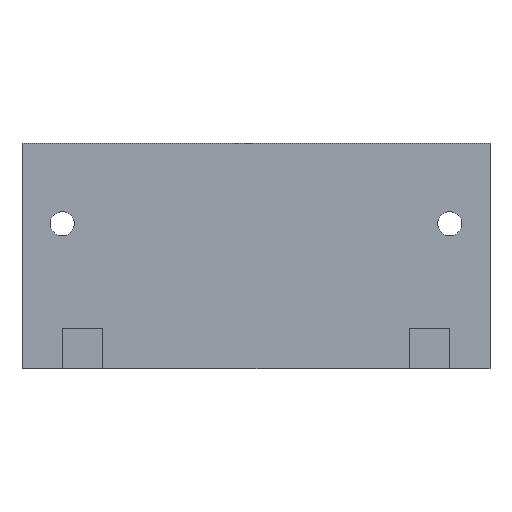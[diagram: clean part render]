
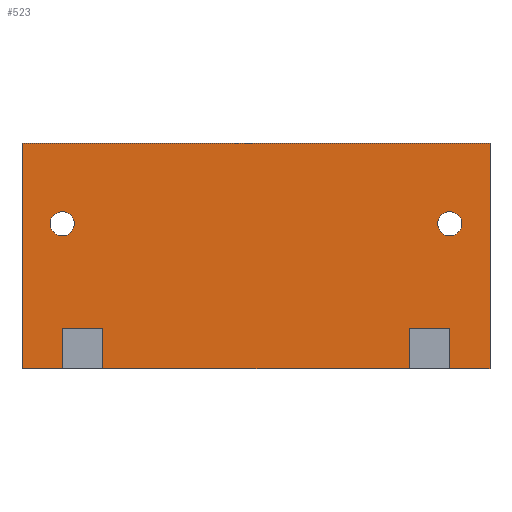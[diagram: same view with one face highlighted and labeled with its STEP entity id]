
A CAD part, front view. The second image highlights one B-rep face of the part: STEP entity #523.
In plain terms, the highlighted planar face has unit normal (0, -1, 0).
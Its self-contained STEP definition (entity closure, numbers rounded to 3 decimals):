
#23=FACE_BOUND('',#100,.T.);
#24=FACE_BOUND('',#101,.T.);
#41=PLANE('',#588);
#67=FACE_OUTER_BOUND('',#99,.T.);
#99=EDGE_LOOP('',(#452,#453,#454,#455,#456,#457,#458,#459,#460,#461,#462,
#463));
#100=EDGE_LOOP('',(#464));
#101=EDGE_LOOP('',(#465));
#112=LINE('',#765,#163);
#118=LINE('',#778,#169);
#129=LINE('',#865,#180);
#133=LINE('',#873,#184);
#136=LINE('',#879,#187);
#140=LINE('',#888,#191);
#144=LINE('',#896,#195);
#147=LINE('',#902,#198);
#151=LINE('',#911,#202);
#152=LINE('',#913,#203);
#153=LINE('',#914,#204);
#154=LINE('',#915,#205);
#163=VECTOR('',#619,10.);
#169=VECTOR('',#629,10.);
#180=VECTOR('',#682,10.);
#184=VECTOR('',#688,10.);
#187=VECTOR('',#693,10.);
#191=VECTOR('',#701,10.);
#195=VECTOR('',#707,10.);
#198=VECTOR('',#712,10.);
#202=VECTOR('',#724,10.);
#203=VECTOR('',#725,10.);
#204=VECTOR('',#726,10.);
#205=VECTOR('',#727,10.);
#221=CIRCLE('',#572,1.5);
#224=CIRCLE('',#577,1.5);
#236=VERTEX_POINT('',#762);
#237=VERTEX_POINT('',#764);
#242=VERTEX_POINT('',#776);
#253=VERTEX_POINT('',#845);
#257=VERTEX_POINT('',#859);
#258=VERTEX_POINT('',#863);
#259=VERTEX_POINT('',#864);
#262=VERTEX_POINT('',#872);
#264=VERTEX_POINT('',#878);
#266=VERTEX_POINT('',#886);
#267=VERTEX_POINT('',#887);
#270=VERTEX_POINT('',#895);
#272=VERTEX_POINT('',#901);
#274=VERTEX_POINT('',#912);
#287=EDGE_CURVE('',#237,#236,#112,.T.);
#294=EDGE_CURVE('',#236,#242,#118,.T.);
#308=EDGE_CURVE('',#253,#253,#221,.T.);
#316=EDGE_CURVE('',#257,#257,#224,.T.);
#318=EDGE_CURVE('',#258,#259,#129,.T.);
#322=EDGE_CURVE('',#259,#262,#133,.T.);
#325=EDGE_CURVE('',#262,#264,#136,.T.);
#329=EDGE_CURVE('',#266,#267,#140,.T.);
#333=EDGE_CURVE('',#267,#270,#144,.T.);
#336=EDGE_CURVE('',#270,#272,#147,.T.);
#341=EDGE_CURVE('',#264,#237,#151,.T.);
#342=EDGE_CURVE('',#274,#242,#152,.T.);
#343=EDGE_CURVE('',#274,#266,#153,.T.);
#344=EDGE_CURVE('',#272,#258,#154,.T.);
#452=ORIENTED_EDGE('',*,*,#325,.T.);
#453=ORIENTED_EDGE('',*,*,#341,.T.);
#454=ORIENTED_EDGE('',*,*,#287,.T.);
#455=ORIENTED_EDGE('',*,*,#294,.T.);
#456=ORIENTED_EDGE('',*,*,#342,.F.);
#457=ORIENTED_EDGE('',*,*,#343,.T.);
#458=ORIENTED_EDGE('',*,*,#329,.T.);
#459=ORIENTED_EDGE('',*,*,#333,.T.);
#460=ORIENTED_EDGE('',*,*,#336,.T.);
#461=ORIENTED_EDGE('',*,*,#344,.T.);
#462=ORIENTED_EDGE('',*,*,#318,.T.);
#463=ORIENTED_EDGE('',*,*,#322,.T.);
#464=ORIENTED_EDGE('',*,*,#308,.T.);
#465=ORIENTED_EDGE('',*,*,#316,.T.);
#523=ADVANCED_FACE('',(#67,#23,#24),#41,.T.);
#572=AXIS2_PLACEMENT_3D('',#846,#662,#663);
#577=AXIS2_PLACEMENT_3D('',#860,#677,#678);
#588=AXIS2_PLACEMENT_3D('',#910,#722,#723);
#619=DIRECTION('',(0.,0.,1.));
#629=DIRECTION('',(-1.,0.,0.));
#662=DIRECTION('center_axis',(0.,1.,0.));
#663=DIRECTION('ref_axis',(1.,0.,0.));
#677=DIRECTION('center_axis',(0.,1.,0.));
#678=DIRECTION('ref_axis',(1.,0.,0.));
#682=DIRECTION('',(0.,0.,1.));
#688=DIRECTION('',(1.,0.,0.));
#693=DIRECTION('',(0.,0.,-1.));
#701=DIRECTION('',(0.,0.,1.));
#707=DIRECTION('',(1.,0.,0.));
#712=DIRECTION('',(0.,0.,-1.));
#722=DIRECTION('center_axis',(0.,-1.,0.));
#723=DIRECTION('ref_axis',(1.,0.,0.));
#724=DIRECTION('',(1.,0.,0.));
#725=DIRECTION('',(0.,0.,1.));
#726=DIRECTION('',(1.,0.,0.));
#727=DIRECTION('',(1.,0.,0.));
#762=CARTESIAN_POINT('',(29.,-78.,28.));
#764=CARTESIAN_POINT('',(29.,-78.,0.));
#765=CARTESIAN_POINT('',(29.,-78.,0.));
#776=CARTESIAN_POINT('',(-29.,-78.,28.));
#778=CARTESIAN_POINT('',(29.,-78.,28.));
#845=CARTESIAN_POINT('',(22.5,-78.,18.));
#846=CARTESIAN_POINT('Origin',(24.,-78.,18.));
#859=CARTESIAN_POINT('',(-25.5,-78.,18.));
#860=CARTESIAN_POINT('Origin',(-24.,-78.,18.));
#863=CARTESIAN_POINT('',(19.,-78.,0.));
#864=CARTESIAN_POINT('',(19.,-78.,5.));
#865=CARTESIAN_POINT('',(19.,-78.,2.5));
#872=CARTESIAN_POINT('',(24.,-78.,5.));
#873=CARTESIAN_POINT('',(-2.5,-78.,5.));
#878=CARTESIAN_POINT('',(24.,-78.,0.));
#879=CARTESIAN_POINT('',(24.,-78.,0.));
#886=CARTESIAN_POINT('',(-24.,-78.,0.));
#887=CARTESIAN_POINT('',(-24.,-78.,5.));
#888=CARTESIAN_POINT('',(-24.,-78.,2.5));
#895=CARTESIAN_POINT('',(-19.,-78.,5.));
#896=CARTESIAN_POINT('',(-24.,-78.,5.));
#901=CARTESIAN_POINT('',(-19.,-78.,0.));
#902=CARTESIAN_POINT('',(-19.,-78.,0.));
#910=CARTESIAN_POINT('Origin',(-29.,-78.,0.));
#911=CARTESIAN_POINT('',(-29.,-78.,0.));
#912=CARTESIAN_POINT('',(-29.,-78.,0.));
#913=CARTESIAN_POINT('',(-29.,-78.,0.));
#914=CARTESIAN_POINT('',(-29.,-78.,0.));
#915=CARTESIAN_POINT('',(-29.,-78.,0.));
